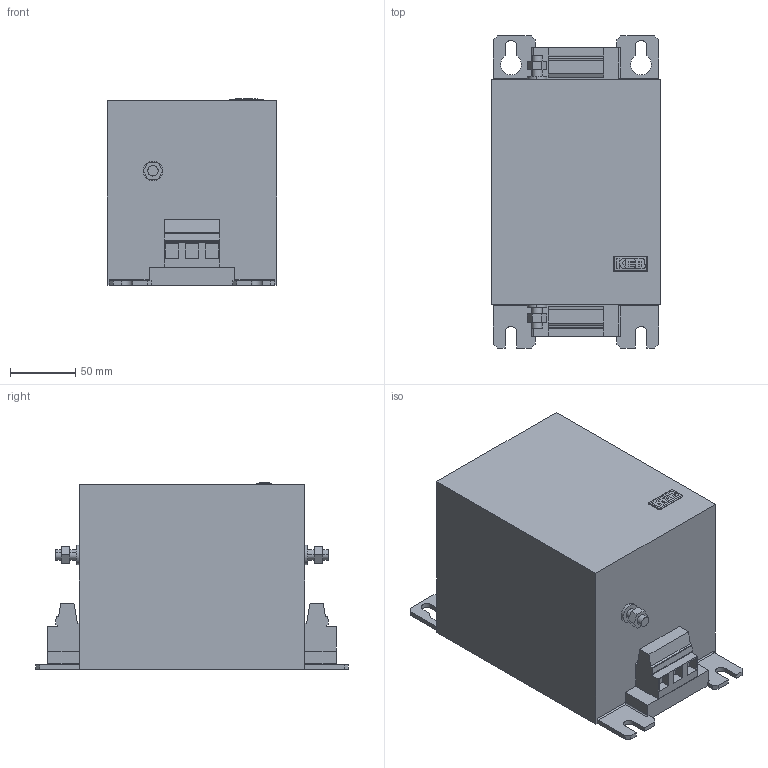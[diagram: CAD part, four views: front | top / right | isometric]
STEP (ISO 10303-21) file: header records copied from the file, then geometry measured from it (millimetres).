
FILE_DESCRIPTION (( 'STEP AP214' ), '1' );
FILE_NAME ('00E6X07-0018.STEP', '2023-07-10T12:59:23', ( '' ), ( '' ), 'SwSTEP 2.0', 'SolidWorks 2022', '' );
FILE_SCHEMA (( 'AUTOMOTIVE_DESIGN' ));
Length unit declared in the file: millimetre
Products named in the file (1): 00E6X07-0018
Bounding box: 130 x 240 x 143.53 mm (x, y, z)
Volume: 3310944 mm3; surface area: 154992.6 mm2
Topology: 1 solids, 1 shells, 212 faces, 561 edges, 370 vertices
Faces by surface type: plane 158, cylinder 41, bspline 13
Entity records: 7412 total; most frequent: CARTESIAN_POINT 2049, ORIENTED_EDGE 1122, DIRECTION 931, EDGE_CURVE 561, VECTOR 403, LINE 403, VERTEX_POINT 370, AXIS2_PLACEMENT_3D 264
